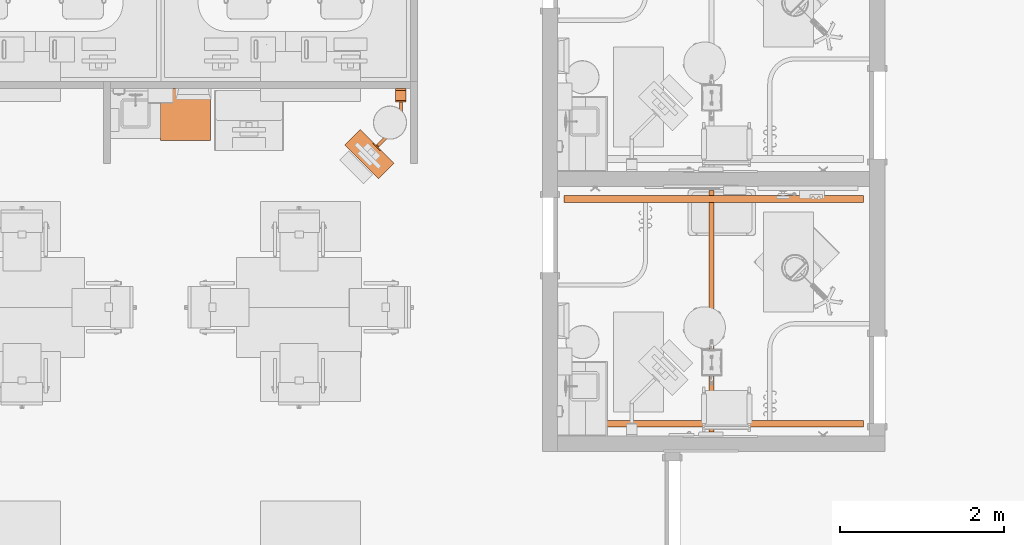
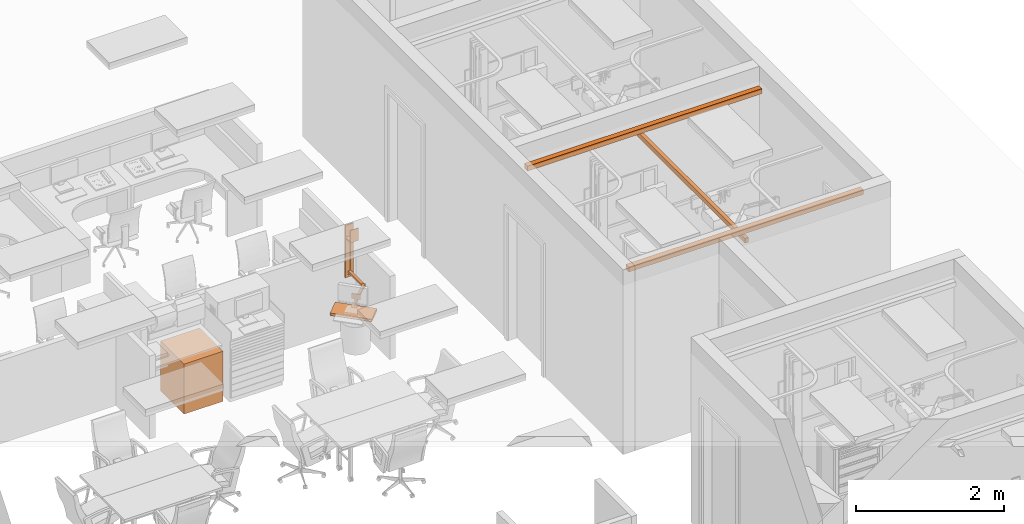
# One storey, part 61 of 142: 3 proxies.
"""IFC2X3 building model written with IfcOpenShell, lengths in feet."""

from ifc_helpers import new_model, entity, si_unit, converted_unit, derived_unit, direction, frame, frame_2d, origin, origin_2d_with_axis, place, context, subcontext, project, spatial, polyline, circle_curve, parameter, trimmed, segment, composite_curve, rectangle, circle, outline, extrude, source, transform, mapped, type_object, type_shapes, element, save


model = new_model("IFC2X3")

# Units and contexts
model_context = context("Model", 3, precision=0.0001, world=origin(), true_north=direction((6.12303176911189e-17, 1.0)))
body_context = subcontext(model_context, "Body", "Model", "MODEL_VIEW")
ifc_project = project(units=[converted_unit("LENGTHUNIT", "FOOT", entity("IfcRatioMeasure", 0.3048), si_unit("LENGTHUNIT", "METRE"), dimensions=[1, 0, 0, 0, 0, 0, 0]), converted_unit("AREAUNIT", "SQUARE FOOT", entity("IfcRatioMeasure", 0.09290304), si_unit("AREAUNIT", "SQUARE_METRE"), dimensions=[2, 0, 0, 0, 0, 0, 0]), converted_unit("VOLUMEUNIT", "CUBIC FOOT", entity("IfcRatioMeasure", 0.028316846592), si_unit("VOLUMEUNIT", "CUBIC_METRE"), dimensions=[3, 0, 0, 0, 0, 0, 0]), converted_unit("PLANEANGLEUNIT", "DEGREE", entity("IfcRatioMeasure", 0.0174532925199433), si_unit("PLANEANGLEUNIT", "RADIAN"), dimensions=[0, 0, 0, 0, 0, 0, 0]), si_unit("MASSUNIT", "GRAM", prefix="KILO"), derived_unit("MASSDENSITYUNIT", [(si_unit("MASSUNIT", "GRAM", prefix="KILO"), 1), (si_unit("LENGTHUNIT", "METRE"), -3)]), si_unit("TIMEUNIT", "SECOND"), si_unit("FREQUENCYUNIT", "HERTZ"), si_unit("THERMODYNAMICTEMPERATUREUNIT", "DEGREE_CELSIUS"), derived_unit("THERMALTRANSMITTANCEUNIT", [(si_unit("MASSUNIT", "GRAM", prefix="KILO"), 1), (si_unit("THERMODYNAMICTEMPERATUREUNIT", "KELVIN"), -1), (si_unit("TIMEUNIT", "SECOND"), -3)]), derived_unit("VOLUMETRICFLOWRATEUNIT", [(si_unit("LENGTHUNIT", "METRE"), 3), (si_unit("TIMEUNIT", "SECOND"), -1)]), si_unit("ELECTRICCURRENTUNIT", "AMPERE"), si_unit("ELECTRICVOLTAGEUNIT", "VOLT"), si_unit("POWERUNIT", "WATT"), si_unit("FORCEUNIT", "NEWTON"), si_unit("ILLUMINANCEUNIT", "LUX"), si_unit("LUMINOUSFLUXUNIT", "LUMEN"), si_unit("LUMINOUSINTENSITYUNIT", "CANDELA"), derived_unit("USERDEFINED", [(si_unit("MASSUNIT", "GRAM", prefix="KILO"), -1), (si_unit("LENGTHUNIT", "METRE"), -2), (si_unit("TIMEUNIT", "SECOND"), 3), (si_unit("LUMINOUSFLUXUNIT", "LUMEN"), 1)]), derived_unit("LINEARVELOCITYUNIT", [(si_unit("LENGTHUNIT", "METRE"), 1), (si_unit("TIMEUNIT", "SECOND"), -1)]), si_unit("PRESSUREUNIT", "PASCAL"), derived_unit("USERDEFINED", [(si_unit("LENGTHUNIT", "METRE"), -2), (si_unit("MASSUNIT", "GRAM", prefix="KILO"), 1), (si_unit("TIMEUNIT", "SECOND"), -2)])], contexts=[model_context])

# Site, building, storey, space
site_placement = place(None, origin())
site = spatial("IfcSite", under=ifc_project, at=site_placement, Name="Default", CompositionType="ELEMENT")
building_placement = place(site_placement, origin())
building = spatial("IfcBuilding", under=site, at=building_placement, Name="OUTPATIENT / PACT CLINIC (Ch. 265)", CompositionType="ELEMENT")
storey_placement = place(building_placement, origin())
storey = spatial("IfcBuildingStorey", under=building, at=storey_placement, Name="LEVEL 1", CompositionType="ELEMENT", Elevation=0.0)
space_1_placement = place(storey_placement, origin())
space_1 = spatial("IfcSpace", under=storey, at=space_1_placement, Name="RCA06", CompositionType="ELEMENT", InteriorOrExteriorSpace="INTERNAL")

# Proxies
building_element_proxy_type_1 = type_object("IfcBuildingElementProxyType", Name="R6200 - Refrigerator, U-C or F-S, 5 Cu Ft (1)", PredefinedType="NOTDEFINED")
shared_shape_1 = source(origin(), body_context, "Body", "SweptSolid", [
    extrude(rectangle(XDim=0.166666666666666, YDim=0.229166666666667, at=frame_2d((0.0, -5.55111512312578e-17), x_axis=(1.0, 0.0))), frame((0.885416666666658, -0.833333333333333, 0.083333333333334), z_axis=(0.0, 0.0, 1.0), x_axis=(0.0, 1.0, 0.0)), (0.0, 0.0, 1.0), 0.0625),
    extrude(outline(polyline([(-0.0729036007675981, -0.642218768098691), (0.0520963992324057, -0.642218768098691), (0.0520963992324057, -0.600552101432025), (-0.0312891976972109, -0.600552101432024), (-0.0312891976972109, 0.600578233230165), (0.0520963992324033, 0.600578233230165), (0.0520963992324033, 0.642192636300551), (-0.0729036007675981, 0.642192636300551), (-0.0729036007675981, -0.642218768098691)])), frame((-0.833333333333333, -0.968763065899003, 1.79530736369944), z_axis=(1.0, 0.0, 0.0), x_axis=(0.0, 1.0, 0.0)), (0.0, 0.0, 1.0), 0.125),
    extrude(rectangle(XDim=0.431326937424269, YDim=0.229166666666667, at=frame_2d((-5.55111512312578e-17, 5.55111512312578e-17), x_axis=(1.0, 0.0))), frame((0.885416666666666, -0.701003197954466, 2.64583333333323), z_axis=(0.0, 0.0, 1.0), x_axis=(0.0, 1.0, 0.0)), (0.0, 0.0, 1.0), 0.0625),
    extrude(rectangle(XDim=0.0416666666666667, YDim=1.91666666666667, at=origin_2d_with_axis()), frame((0.0, -0.770833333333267, 0.219073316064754), z_axis=(0.0, 0.0, 1.0), x_axis=(0.0, 1.0, 0.0)), (0.0, 0.0, 1.0), 2.36426001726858),
    extrude(rectangle(XDim=0.125, YDim=2.0, at=frame_2d((5.55111512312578e-17, 0.0), x_axis=(1.0, 0.0))), frame((0.0, -0.8541666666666, 0.145833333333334), z_axis=(0.0, 0.0, 1.0), x_axis=(0.0, 1.0, 0.0)), (0.0, 0.0, 1.0), 2.4999999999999),
    extrude(rectangle(XDim=2.0, YDim=1.7916666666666, at=origin_2d_with_axis()), frame((0.0, 0.145833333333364, 0.0833333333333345), z_axis=(0.0, 0.0, 1.0), x_axis=(-1.0, 0.0, 0.0)), (0.0, 0.0, 1.0), 2.5624999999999),
    extrude(circle(Radius=0.104166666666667, at=frame_2d((2.71926214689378e-32, -2.22044604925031e-16), x_axis=(1.0, 0.0))), frame((-0.760096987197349, -0.548497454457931, 0.0), z_axis=(0.0, 0.0, 1.0), x_axis=(-1.0, 0.0, 0.0)), (0.0, 0.0, 1.0), 0.0833333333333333),
    extrude(circle(Radius=0.104166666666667, at=frame_2d((0.0, -2.22044604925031e-16), x_axis=(1.0, 0.0))), frame((0.760096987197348, -0.548497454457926, 0.0)), (0.0, 0.0, 1.0), 0.0833333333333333),
    extrude(circle(Radius=0.104166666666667, at=frame_2d((2.71926214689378e-32, -2.22044604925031e-16), x_axis=(1.0, 0.0))), frame((-0.760096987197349, 0.82650254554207, 0.0), z_axis=(0.0, 0.0, 1.0), x_axis=(-1.0, 0.0, 0.0)), (0.0, 0.0, 1.0), 0.0833333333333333),
    extrude(circle(Radius=0.104166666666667, at=frame_2d((0.0, -2.22044604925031e-16), x_axis=(1.0, 0.0))), frame((0.760096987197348, 0.826502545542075, 0.0)), (0.0, 0.0, 1.0), 0.0833333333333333),
    extrude(rectangle(XDim=2.08333333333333, YDim=2.0, at=frame_2d((8.88178419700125e-16, 0.2), x_axis=(1.0, 0.0))), frame((-0.199999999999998, 0.0, 0.0), z_axis=(0.0, 0.0, 1.0), x_axis=(0.0, -1.0, 0.0)), (0.0, 0.0, 1.0), 2.7083333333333),
])
type_shapes(building_element_proxy_type_1, [shared_shape_1])
proxy_1_placement = place(space_1_placement, frame((420.359283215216, -890.753824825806, 0.0)))
element("IfcBuildingElementProxy", 1, at=proxy_1_placement, inside=space_1, type_object=building_element_proxy_type_1, Name="R6200 - Refrigerator, U-C or F-S, 5 Cu Ft (1):R6200 - Refrigerator, U-C or F-S, 5 Cu Ft (1)", ObjectType="R6200 - Refrigerator, U-C or F-S, 5 Cu Ft (1)", context=body_context, shape_type="MappedRepresentation", body=[
    mapped(shared_shape_1, transform((0.0, 0.0, 0.0), scale=1.0)),
])
building_element_proxy_type_2 = type_object("IfcBuildingElementProxyType", Name="M1803 - Workstation, Computer, Wall Mounted", PredefinedType="NOTDEFINED")
shared_shape_2 = source(origin(), body_context, "Body", "SweptSolid", [
    extrude(circle(Radius=0.104166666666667, at=frame_2d((1.0547118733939e-15, 3.336446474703e-16), x_axis=(1.0, 0.0))), frame((-0.0810226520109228, -1.34888430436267, 0.333333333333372), z_axis=(0.707106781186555, -0.70710678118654, 0.0), x_axis=(0.0, 0.0, 1.0)), (0.0, 0.0, 1.0), 0.125000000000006),
    extrude(outline(composite_curve([segment(polyline([(0.0520833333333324, -0.592708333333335), (0.0520833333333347, 0.644791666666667)]), True, "CONTINUOUS"), segment(polyline([(0.0520833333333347, 0.644791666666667), (-0.0520833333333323, 0.644791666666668)]), True, "CONTINUOUS"), segment(polyline([(-0.0520833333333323, 0.644791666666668), (-0.0520833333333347, -0.696875)]), True, "CONTINUOUS"), segment(trimmed(circle_curve(frame_2d((0.0520833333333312, -0.696875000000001), x_axis=(1.0, 0.0)), 0.104166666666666), [parameter(89.9999999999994)], [parameter(180.0)], True, "PARAMETER"), False, "CONTINUOUS")], self_intersect=False)), frame((-0.0624999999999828, -0.711458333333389, 0.281250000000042), z_axis=(-1.0, 0.0, 0.0), x_axis=(0.0, 0.0, 1.0)), (0.0, 0.0, -1.0), 0.125000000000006),
    extrude(outline(composite_curve([segment(polyline([(0.0520833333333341, -0.651041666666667), (0.0520833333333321, 0.598958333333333)]), True, "CONTINUOUS"), segment(polyline([(0.0520833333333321, 0.598958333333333), (-0.0520833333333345, 0.598958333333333)]), True, "CONTINUOUS"), segment(polyline([(-0.0520833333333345, 0.598958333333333), (-0.0520833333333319, -0.546875)]), True, "CONTINUOUS"), segment(trimmed(circle_curve(frame_2d((-0.0520833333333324, -0.651041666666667), x_axis=(1.0, 0.0)), 0.104166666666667), [parameter(1.01777749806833e-13)], [parameter(90.0000000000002)], True, "PARAMETER"), False, "CONTINUOUS")], self_intersect=False)), frame((-0.452990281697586, -1.89762862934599, 0.385416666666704), z_axis=(0.707106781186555, -0.70710678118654, 0.0), x_axis=(0.0, 0.0, 1.0)), (0.0, 0.0, -1.0), 0.125000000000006),
    extrude(outline(polyline([(-0.0729166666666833, -0.95833333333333), (0.0729166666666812, -0.95833333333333), (0.0729166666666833, 0.95833333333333), (-0.0729166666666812, 0.95833333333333), (-0.0729166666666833, -0.95833333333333)]), holes=[polyline([(-0.05208333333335, -0.937499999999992), (-0.052083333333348, 0.937499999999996), (0.0520833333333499, 0.937499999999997), (0.0520833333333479, -0.937499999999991), (-0.05208333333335, -0.937499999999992)])]), frame((-1.5747857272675, -2.93103572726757, 0.0729166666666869), z_axis=(0.707106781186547, 0.707106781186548, 0.0), x_axis=(0.0, 0.0, -1.0)), (0.0, 0.0, 1.0), 0.883333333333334),
    extrude(rectangle(XDim=0.0666666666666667, YDim=0.416666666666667, at=origin_2d_with_axis()), frame((0.0, -0.0333333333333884, 0.0), z_axis=(0.0, 0.0, 1.0), x_axis=(0.0, 1.0, 0.0)), (0.0, 0.0, 1.0), 0.11949518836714),
    extrude(outline(polyline([(-0.208333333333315, -0.0270833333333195), (-0.0625000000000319, -0.0270833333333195), (-0.0625000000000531, 0.014583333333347), (0.0625000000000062, 0.014583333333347), (0.0625000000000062, -0.0270833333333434), (0.208333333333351, -0.0270833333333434), (0.208333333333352, 0.0395833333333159), (-0.208333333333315, 0.0395833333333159), (-0.208333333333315, -0.0270833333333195)])), frame((0.0, -0.0395833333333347, 0.119495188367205)), (0.0, 0.0, 1.0), 2.0471714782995),
    extrude(outline(polyline([(-0.194444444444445, 0.125), (0.430555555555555, 0.125), (0.430555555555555, 0.166666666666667), (-0.236111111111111, 0.166666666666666), (-0.236111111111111, -0.291666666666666), (-0.194444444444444, -0.291666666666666), (-0.194444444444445, 0.125)])), frame((-0.208333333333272, -0.358333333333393, 2.40277777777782), z_axis=(1.0, 0.0, 0.0), x_axis=(0.0, 0.0, 1.0)), (0.0, 0.0, 1.0), 0.416666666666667),
    extrude(rectangle(XDim=0.0416666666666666, YDim=0.416666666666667, at=frame_2d((4.16333634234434e-17, -5.55111512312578e-17), x_axis=(1.0, 0.0))), frame((-0.964906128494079, -2.3211561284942, 0.503601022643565), z_axis=(0.0, 0.0, 1.0), x_axis=(0.707106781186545, 0.70710678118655, 0.0)), (0.0, 0.0, 1.0), 0.267232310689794),
    extrude(rectangle(XDim=0.125000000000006, YDim=0.0416666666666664, at=frame_2d((-1.94289029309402e-16, 1.16226472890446e-16), x_axis=(1.0, 0.0))), frame((-0.935443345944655, -2.29169334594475, 0.0), z_axis=(0.0, 0.0, 1.0), x_axis=(-0.707106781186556, 0.70710678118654, 0.0)), (0.0, 0.0, 1.0), 0.666666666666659),
    extrude(rectangle(XDim=0.0666666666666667, YDim=0.416666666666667, at=origin_2d_with_axis()), frame((0.0, -0.0333333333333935, 2.16666666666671), z_axis=(0.0, 0.0, 1.0), x_axis=(0.0, 1.0, 0.0)), (0.0, 0.0, 1.0), 0.666666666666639),
])
type_shapes(building_element_proxy_type_2, [shared_shape_2])
proxy_2_placement = place(space_1_placement, frame((428.984348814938, -889.712158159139, 2.85416666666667)))
element("IfcBuildingElementProxy", 2, at=proxy_2_placement, inside=space_1, type_object=building_element_proxy_type_2, Name="M1803 - Workstation, Computer, Wall Mounted1:M1803 - Workstation, Computer, Wall Mounted", ObjectType="M1803 - Workstation, Computer, Wall Mounted", context=body_context, shape_type="MappedRepresentation", body=[
    mapped(shared_shape_2, transform((0.0, 0.0, 0.0), scale=1.0)),
])

# Space
space_2_placement = place(storey_placement, origin())
space_2 = spatial("IfcSpace", under=storey, at=space_2_placement, Name="EXPA1", CompositionType="ELEMENT", InteriorOrExteriorSpace="INTERNAL")

# Proxy
building_element_proxy_type_3 = type_object("IfcBuildingElementProxyType", Name="A1203 Lift System, Overhead, Bariatric", PredefinedType="NOTDEFINED")
shared_shape_3 = source(origin(), body_context, "Body", "SweptSolid", [
    extrude(rectangle(XDim=9.66757011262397, YDim=0.190288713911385, at=frame_2d((0.0, -6.93889390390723e-18), x_axis=(1.0, 0.0))), frame((0.244358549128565, 0.0796819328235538, 8.63910761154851), z_axis=(0.0, 0.0, 1.0), x_axis=(-1.0, 0.0, 0.0)), (0.0, 0.0, 1.0), 0.249343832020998),
    extrude(rectangle(XDim=11.9998599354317, YDim=0.267060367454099, at=frame_2d((0.0, 4.44089209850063e-16), x_axis=(1.0, 0.0))), frame((4.74481027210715, 0.0, 8.99015748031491), z_axis=(0.0, 0.0, 1.0), x_axis=(0.0, 1.0, 0.0)), (0.0, 0.0, 1.0), 0.265748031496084),
    extrude(rectangle(XDim=11.9998599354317, YDim=0.267060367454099, at=frame_2d((0.0, 4.44089209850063e-16), x_axis=(1.0, 0.0))), frame((-4.25609317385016, 0.0, 8.99015748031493), z_axis=(0.0, 0.0, 1.0), x_axis=(0.0, 1.0, 0.0)), (0.0, 0.0, 1.0), 0.265748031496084),
])
type_shapes(building_element_proxy_type_3, [shared_shape_3])
proxy_3_placement = place(space_2_placement, frame((441.505047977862, -898.87366225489, 0.0), z_axis=(0.0, 0.0, 1.0), x_axis=(0.0, 1.0, 0.0)))
element("IfcBuildingElementProxy", 3, at=proxy_3_placement, inside=space_2, type_object=building_element_proxy_type_3, Name="A1203 Lift System, Overhead, Bariatric (Traverse):A1203 Lift System, Overhead, Bariatric", ObjectType="A1203 Lift System, Overhead, Bariatric", context=body_context, shape_type="MappedRepresentation", body=[
    mapped(shared_shape_3, transform((0.0, 0.0, 0.0), scale=1.0)),
])

save(model, "model.ifc")
